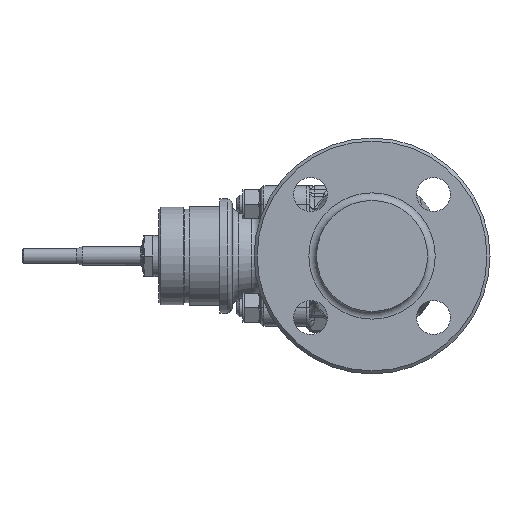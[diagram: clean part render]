
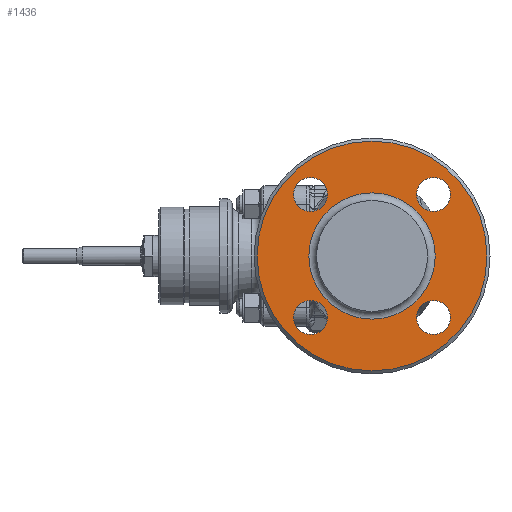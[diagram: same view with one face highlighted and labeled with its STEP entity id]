
A CAD part, left-side view. The second image highlights one B-rep face of the part: STEP entity #1436.
In plain terms, the highlighted planar face has unit normal (-1, 0, 0).
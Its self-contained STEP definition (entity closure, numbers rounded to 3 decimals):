
#1197=FACE_BOUND('',#2433,.T.);
#1198=FACE_BOUND('',#2434,.T.);
#1199=FACE_BOUND('',#2435,.T.);
#1200=FACE_BOUND('',#2436,.T.);
#1201=FACE_BOUND('',#2437,.T.);
#1202=FACE_BOUND('',#2438,.T.);
#1436=ADVANCED_FACE('',(#1197,#1198,#1199,#1200,#1201,#1202),#1893,.T.);
#1893=PLANE('',#7058);
#2433=EDGE_LOOP('',(#3224));
#2434=EDGE_LOOP('',(#3225));
#2435=EDGE_LOOP('',(#3226));
#2436=EDGE_LOOP('',(#3227));
#2437=EDGE_LOOP('',(#3228));
#2438=EDGE_LOOP('',(#3229));
#3224=ORIENTED_EDGE('',*,*,#5712,.T.);
#3225=ORIENTED_EDGE('',*,*,#5713,.F.);
#3226=ORIENTED_EDGE('',*,*,#5714,.F.);
#3227=ORIENTED_EDGE('',*,*,#5715,.F.);
#3228=ORIENTED_EDGE('',*,*,#5716,.F.);
#3229=ORIENTED_EDGE('',*,*,#5717,.T.);
#5097=VERTEX_POINT('',#10713);
#5098=VERTEX_POINT('',#10715);
#5099=VERTEX_POINT('',#10717);
#5100=VERTEX_POINT('',#10719);
#5101=VERTEX_POINT('',#10721);
#5102=VERTEX_POINT('',#10723);
#5712=EDGE_CURVE('',#5097,#5097,#6555,.T.);
#5713=EDGE_CURVE('',#5098,#5098,#6556,.T.);
#5714=EDGE_CURVE('',#5099,#5099,#6557,.T.);
#5715=EDGE_CURVE('',#5100,#5100,#6558,.T.);
#5716=EDGE_CURVE('',#5101,#5101,#6559,.T.);
#5717=EDGE_CURVE('',#5102,#5102,#6560,.T.);
#6555=CIRCLE('',#7052,75.5);
#6556=CIRCLE('',#7053,11.15);
#6557=CIRCLE('',#7054,11.15);
#6558=CIRCLE('',#7055,11.15);
#6559=CIRCLE('',#7056,11.15);
#6560=CIRCLE('',#7057,41.5);
#7052=AXIS2_PLACEMENT_3D('',#10712,#8075,#8076);
#7053=AXIS2_PLACEMENT_3D('',#10714,#8077,#8078);
#7054=AXIS2_PLACEMENT_3D('',#10716,#8079,#8080);
#7055=AXIS2_PLACEMENT_3D('',#10718,#8081,#8082);
#7056=AXIS2_PLACEMENT_3D('',#10720,#8083,#8084);
#7057=AXIS2_PLACEMENT_3D('',#10722,#8085,#8086);
#7058=AXIS2_PLACEMENT_3D('',#10724,#8087,#8088);
#8075=DIRECTION('',(-1.,0.,0.));
#8076=DIRECTION('',(0.,0.,1.));
#8077=DIRECTION('',(-1.,0.,0.));
#8078=DIRECTION('',(0.,0.,1.));
#8079=DIRECTION('',(-1.,0.,0.));
#8080=DIRECTION('',(0.,0.,1.));
#8081=DIRECTION('',(-1.,0.,0.));
#8082=DIRECTION('',(0.,0.,1.));
#8083=DIRECTION('',(-1.,0.,0.));
#8084=DIRECTION('',(0.,0.,1.));
#8085=DIRECTION('',(1.,0.,0.));
#8086=DIRECTION('',(0.,0.,1.));
#8087=DIRECTION('',(-1.,0.,0.));
#8088=DIRECTION('',(0.,0.,1.));
#10712=CARTESIAN_POINT('',(-118.5,0.,0.));
#10713=CARTESIAN_POINT('',(-118.5,0.,75.5));
#10714=CARTESIAN_POINT('',(-118.5,-40.411,40.411));
#10715=CARTESIAN_POINT('',(-118.5,-40.411,51.561));
#10716=CARTESIAN_POINT('',(-118.5,-40.411,-40.411));
#10717=CARTESIAN_POINT('',(-118.5,-40.411,-29.261));
#10718=CARTESIAN_POINT('',(-118.5,40.411,-40.411));
#10719=CARTESIAN_POINT('',(-118.5,40.411,-29.261));
#10720=CARTESIAN_POINT('',(-118.5,40.411,40.411));
#10721=CARTESIAN_POINT('',(-118.5,40.411,51.561));
#10722=CARTESIAN_POINT('',(-118.5,0.,0.));
#10723=CARTESIAN_POINT('',(-118.5,0.,41.5));
#10724=CARTESIAN_POINT('',(-118.5,77.5,0.));
